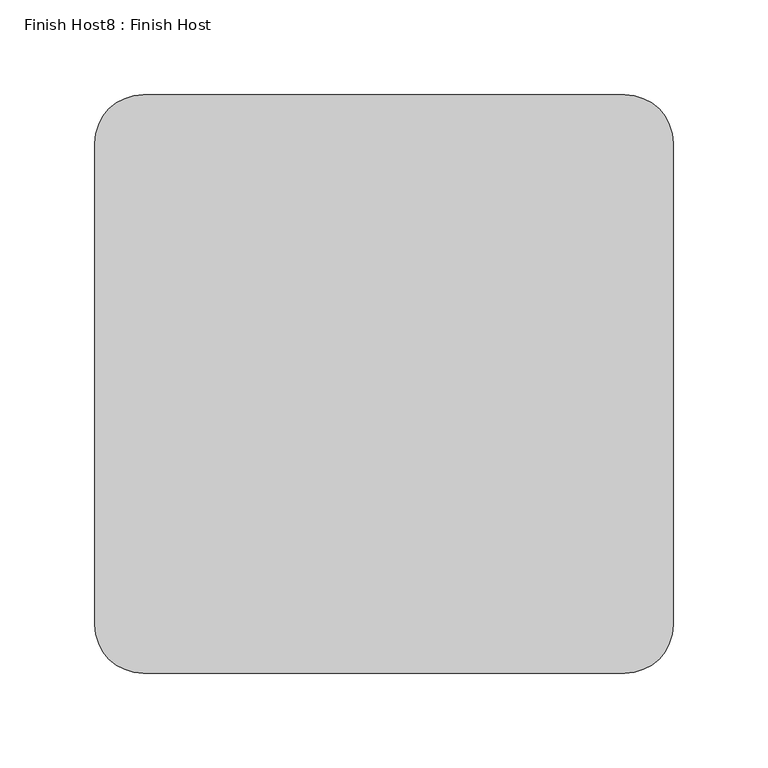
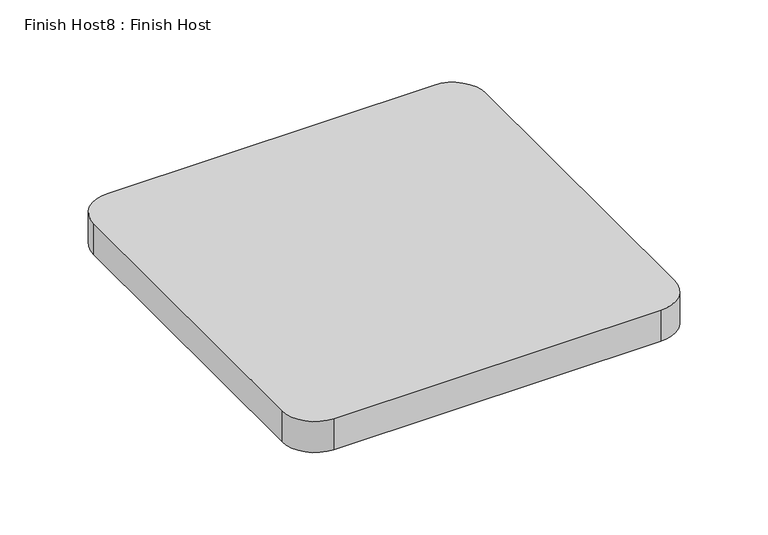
"""IFC4 building model written with IfcOpenShell, lengths in millimetres: proxy geometry, Finish Host8 : Finish Host."""

from ifc_helpers import new_model, si_unit, point, frame_2d, origin, origin_with_axes, place, context, project, spatial, polyline, circle_curve, trimmed, segment, composite_curve, outline, extrude, source, transform, mapped, element, save


def finish_host8_finish_host_4df69d28(model_context):
    return source(origin(), model_context, "Body", "SweptSolid", [
        extrude(outline(composite_curve([segment(polyline([(2409.3649374, 2632.9667263), (2409.3649374, 2886.9667263)]), True, "CONTINUOUS"), segment(trimmed(circle_curve(frame_2d((2434.7649374, 2886.9667263)), 25.4), [point((2409.3649374, 2886.9667263))], [point((2434.7649374, 2912.3667263))], False, "CARTESIAN"), True, "CONTINUOUS"), segment(polyline([(2434.7649374, 2912.3667263), (2688.7649374, 2912.3667263)]), True, "CONTINUOUS"), segment(trimmed(circle_curve(frame_2d((2688.7649374, 2886.9667263)), 25.4), [point((2688.7649374, 2912.3667263))], [point((2714.1649374, 2886.9667263))], False, "CARTESIAN"), True, "CONTINUOUS"), segment(polyline([(2714.1649374, 2886.9667263), (2714.1649374, 2632.9667263)]), True, "CONTINUOUS"), segment(trimmed(circle_curve(frame_2d((2688.7649374, 2632.9667263)), 25.4), [point((2714.1649374, 2632.9667263))], [point((2688.7649374, 2607.5667263))], False, "CARTESIAN"), True, "CONTINUOUS"), segment(polyline([(2688.7649374, 2607.5667263), (2434.7649374, 2607.5667263)]), True, "CONTINUOUS"), segment(trimmed(circle_curve(frame_2d((2434.7649374, 2632.9667263)), 25.4), [point((2434.7649374, 2607.5667263))], [point((2409.3649374, 2632.9667263))], False, "CARTESIAN"), True, "CONTINUOUS")], self_intersect=False)), origin_with_axes(), (0.0, 0.0, 1.0), 25.4),
    ])


if __name__ == "__main__":
    model = new_model("IFC4")
    model_context = context("Model", 3, world=origin())
    ifc_project = project(units=[si_unit("LENGTHUNIT", "METRE", prefix="MILLI")], contexts=[model_context])
    site = spatial("IfcSite", under=ifc_project)
    building = spatial("IfcBuilding", under=site)
    placement = place(None, origin())
    finish_host8_finish_host_shape = finish_host8_finish_host_4df69d28(model_context)
    element("IfcBuildingElementProxy", 1, Name="Finish Host8 : Finish Host", ObjectType="Finish Host8 : Finish Host", at=placement, inside=building, context=model_context, shape_type="MappedRepresentation", body=[
        mapped(finish_host8_finish_host_shape, transform((0.0, 0.0, 0.0), x_axis=(1.0, 0.0, 0.0), y_axis=(0.0, 1.0, 0.0), z_axis=(0.0, 0.0, 1.0))),
    ])
    save(model, "model.ifc")
